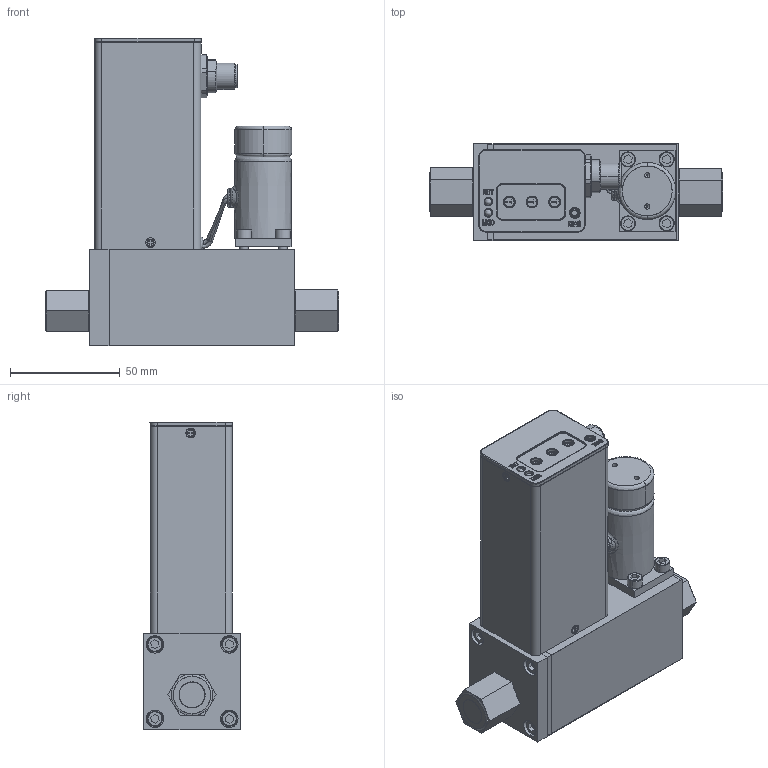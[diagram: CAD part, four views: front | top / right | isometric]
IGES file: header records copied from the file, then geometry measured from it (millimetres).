
Start section: SolidWorks IGES file using analytic representation for surfaces
Global section: file name: G:\Engineering\CAD MODELS FOR SALES\CAD MODEL STORAGE\SLA\SLA5851\CUSTOMER FILES\IGES\SLA5851-D-T1-1-A-RevB.IGS; native system: SolidWorks 2023; preprocessor: SolidWorks 2023; author: SThen; date: 250224.153157; units: inch
Bounding box: 133.77 x 44.32 x 140.54 mm (x, y, z)
Surface area: 100751 mm2 (no closed solid volume)
Topology: 0 solids, 0 shells, 2019 faces, 18691 edges, 18687 vertices
Faces by surface type: bspline 1485, revolution 534
